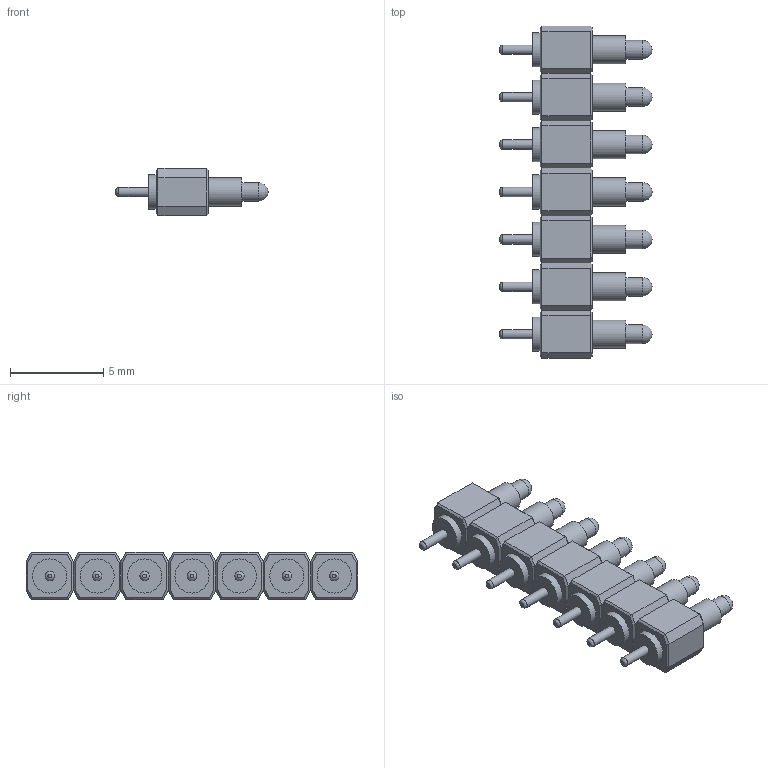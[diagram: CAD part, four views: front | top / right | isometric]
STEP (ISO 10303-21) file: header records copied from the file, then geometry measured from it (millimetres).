
FILE_DESCRIPTION(('FreeCAD Model'),'2;1');
FILE_NAME('Open CASCADE Shape Model','2024-10-25T12:06:04',('Author'),( ''),'Open CASCADE STEP processor 7.5','FreeCAD','Unknown');
FILE_SCHEMA(('AUTOMOTIVE_DESIGN { 1 0 10303 214 1 1 1 1 }'));
Length unit declared in the file: millimetre
Products named in the file (22): 816-22-007; P083; Body166; Contact081; P081; Body160; Contact082; P089; Body162; Contact083; P084; Body161; Contact088; P093; Body185; Contact089; P085; Body178; Contact091; P087; Body177; Contact090
Assembly tree (21 placements, depth 3):
  816-22-007
    P083
      Body166
      Contact081
    P081
      Body160
      Contact082
    P089
      Body162
      Contact083
    P084
      Body161
      Contact088
    P093
      Body185
      Contact089
    P085
      Body178
      Contact091
    P087
      Body177
      Contact090
Bounding box: 8.15 x 17.78 x 2.54 mm (x, y, z)
Volume: 159.1 mm3; surface area: 577.7 mm2
Topology: 14 solids, 14 shells, 266 faces, 525 edges, 308 vertices
Faces by surface type: plane 217, cylinder 35, revolution 14
Full cylindrical faces by diameter (mm): 0.5 x7, 1 x7, 1.5 x14, 1.83 x7
Entity records: 14096 total; most frequent: CARTESIAN_POINT 2311, DIRECTION 2228, LINE 1407, VECTOR 1407, ORIENTED_EDGE 1050, PCURVE 1050, DEFINITIONAL_REPRESENTATION 1050, EDGE_CURVE 525
